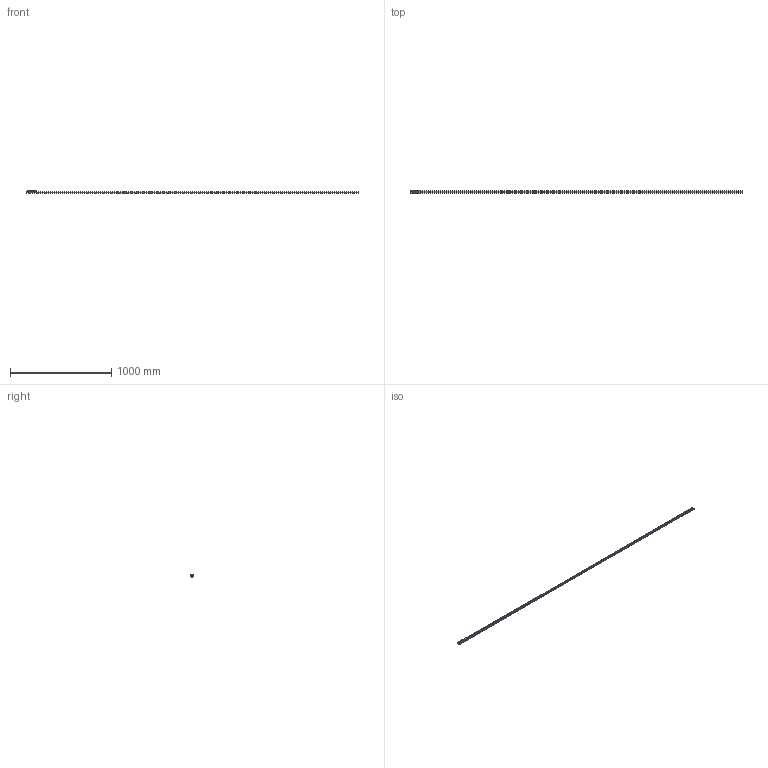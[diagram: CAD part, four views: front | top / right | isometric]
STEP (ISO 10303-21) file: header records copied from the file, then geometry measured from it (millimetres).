
FILE_DESCRIPTION( ( 'STEP AP214' ), '1' );
FILE_NAME( 'p:/temp/worker_22/temp/exporttempdir_996_154_PNFBa/format_1/TEN26-3280-CEN26-92.stp', '2020-05-08T18:54:58', ( 'License CC BY-ND 4.0' ), ( 'CADENAS' ), ' ', 'PARTsolutions', ' ' );
FILE_SCHEMA( ( 'AUTOMOTIVE_DESIGN { 1 0 10303 214 1 1 1 1 }' ) );
Length unit declared in the file: millimetre
Products named in the file (6): TEN26-3280-CEN26-92; _TEN 26-3280; _CEN26-92_1; _RLN26(11.2_M5); _RLA26(11.2_M5); _LAN-26
Assembly tree (8 placements, depth 2):
  TEN26-3280-CEN26-92
    _TEN 26-3280
    _CEN26-92_1
    _RLN26(11.2_M5)  x2
    _RLA26(11.2_M5)
    _LAN-26  x3
Bounding box: 3280 x 26 x 22 mm (x, y, z)
Volume: 351861.6 mm3; surface area: 298639.1 mm2
Topology: 8 solids, 8 shells, 274 faces, 624 edges, 393 vertices
Faces by surface type: plane 131, cylinder 110, cone 24, bspline 9
Full cylindrical faces by diameter (mm): 2.5 x2, 4.134 x5, 4.5 x3, 5 x6, 6.5 x41, 9.3 x3, 11.2 x6, 11.6 x6, 15.7 x6, 16.7 x6
Entity records: 6980 total; most frequent: CARTESIAN_POINT 990, DIRECTION 958, ORIENTED_EDGE 698, AXIS2_PLACEMENT_3D 415, EDGE_LOOP 396, EDGE_CURVE 349, VERTEX_POINT 279, FACE_OUTER_BOUND 266
